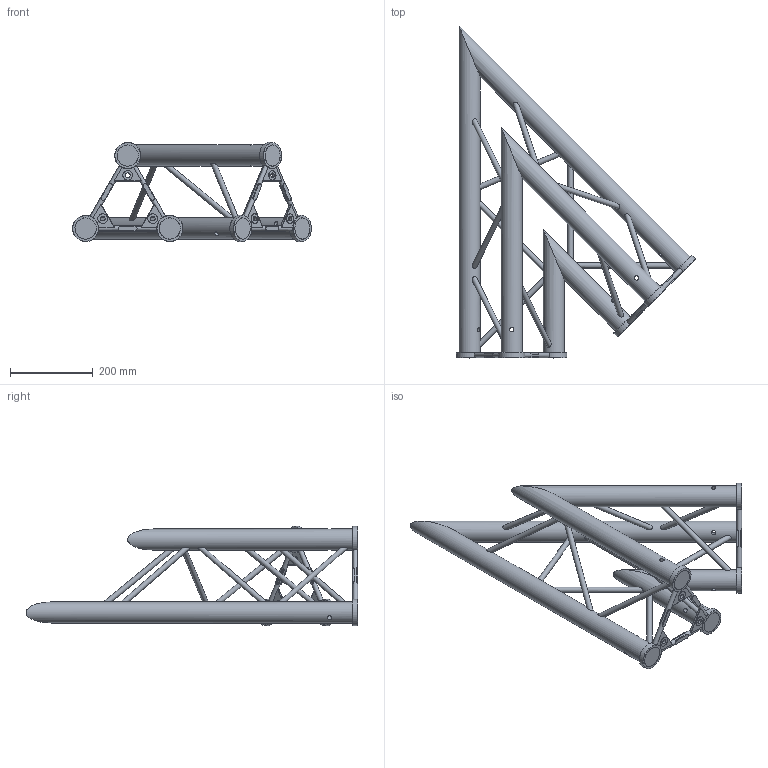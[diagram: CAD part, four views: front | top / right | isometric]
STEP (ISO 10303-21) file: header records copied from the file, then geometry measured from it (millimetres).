
FILE_DESCRIPTION(/* description */ (''),/* implementation_level */ '2;1');
FILE_NAME(/* name */ 'C:\Users\stephan\Desktop\A03\Corners\112030012.stp',/* time_stamp */ '2016-02-12T14:04:37+01:00',/* author */ ('Stephan'),/* organization */ (''),/* preprocessor_version */ 'ST-DEVELOPER v15.6',/* originating_system */ 'Autodesk Inventor 2015',/* authorisation */ '');
FILE_SCHEMA (('AUTOMOTIVE_DESIGN { 1 0 10303 214 3 1 1 }'));
Products named in the file (1): 160025867
Bounding box: 576 x 799.99 x 239.1 mm (x, y, z)
Volume: 6546416.7 mm3; surface area: 687345.8 mm2
Topology: 3 solids, 3 shells, 1949 faces, 5235 edges, 3486 vertices
Faces by surface type: plane 954, bspline 856, cylinder 115, cone 12, torus 12
Full cylindrical faces by diameter (mm): 10.5 x6, 11.5 x12, 12.7 x13, 23.5 x6, 50.8 x6, 51.3 x6, 63.3 x6
Entity records: 70333 total; most frequent: CARTESIAN_POINT 25960, ORIENTED_EDGE 10228, DIRECTION 5622, EDGE_CURVE 5114, VERTEX_POINT 3440, LINE 3094, VECTOR 3094, EDGE_LOOP 2280
